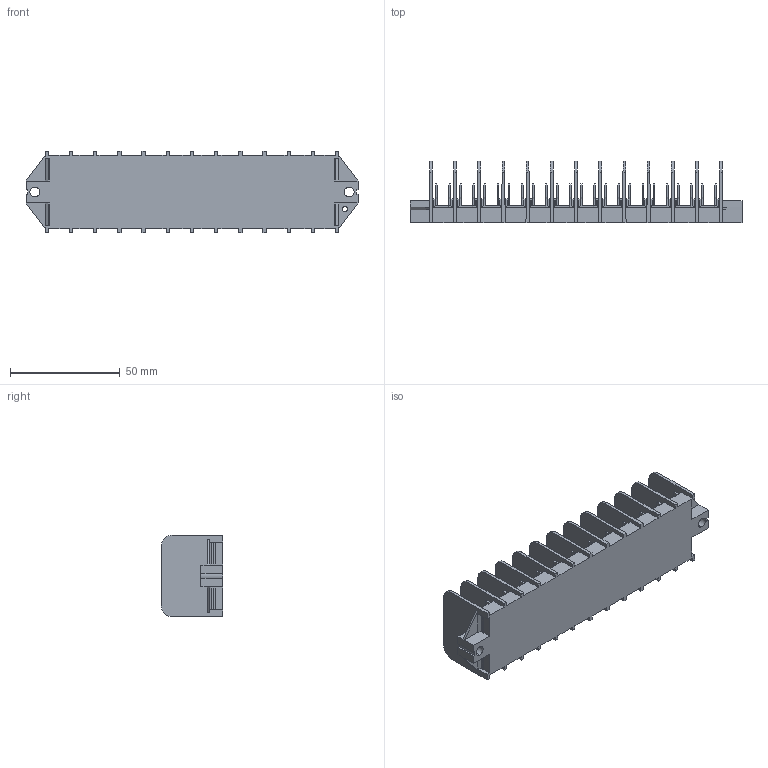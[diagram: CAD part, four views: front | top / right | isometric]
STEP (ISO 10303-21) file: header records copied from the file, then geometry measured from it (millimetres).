
FILE_DESCRIPTION (( 'STEP AP203' ), '1' );
FILE_NAME ('308-PA-102-12.STEP', '2018-05-23T21:34:51', ( '' ), ( '' ), 'SwSTEP 2.0', 'SolidWorks 2016', '' );
FILE_SCHEMA (( 'CONFIG_CONTROL_DESIGN' ));
Length unit declared in the file: millimetre
Products named in the file (1): 308-PA-102-12
Bounding box: 151 x 28 x 37 mm (x, y, z)
Volume: 49669.2 mm3; surface area: 44692.8 mm2
Topology: 1 solids, 1 shells, 3110 faces, 8868 edges, 5700 vertices
Faces by surface type: plane 2020, cylinder 1066, bspline 24
Entity records: 104013 total; most frequent: CARTESIAN_POINT 22659, ORIENTED_EDGE 17736, DIRECTION 16086, EDGE_CURVE 8868, VECTOR 6664, LINE 6664, VERTEX_POINT 5700, AXIS2_PLACEMENT_3D 4711
